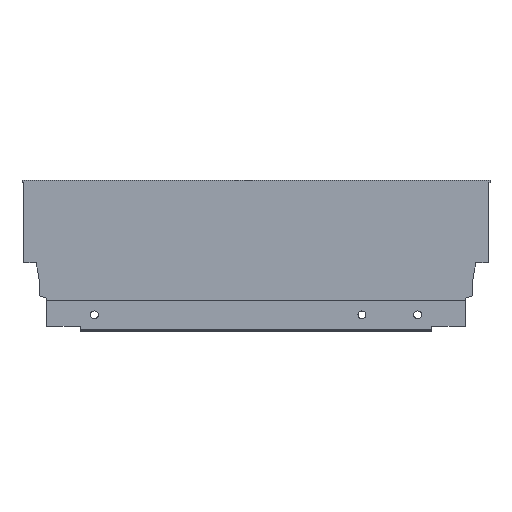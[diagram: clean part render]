
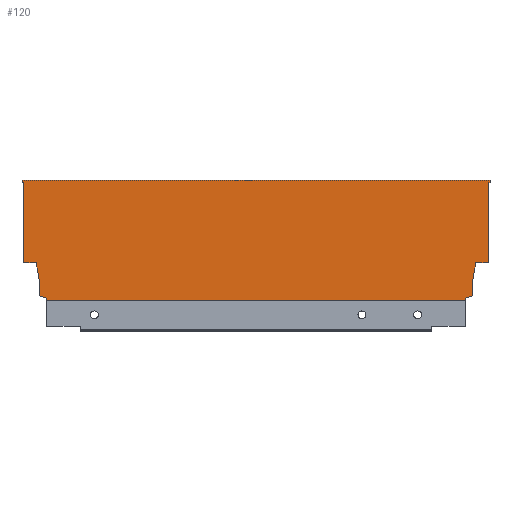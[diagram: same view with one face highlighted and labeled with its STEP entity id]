
A CAD part, top view. The second image highlights one B-rep face of the part: STEP entity #120.
In plain terms, the highlighted planar face has unit normal (0, 0, 1).
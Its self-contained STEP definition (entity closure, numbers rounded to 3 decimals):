
#9 = VERTEX_POINT ( 'NONE', #742 ) ;
#36 = EDGE_LOOP ( 'NONE', ( #216, #217, #218, #219, #220, #221, #222, #223, #224, #225, #226, #227, #228, #229, #230, #231, #232, #233 ) ) ;
#120 = ADVANCED_FACE ( 'NONE', ( #338 ), #763, .T. ) ;
#216 = ORIENTED_EDGE ( 'NONE', *, *, #552, .F. ) ;
#217 = ORIENTED_EDGE ( 'NONE', *, *, #557, .F. ) ;
#218 = ORIENTED_EDGE ( 'NONE', *, *, #556, .T. ) ;
#219 = ORIENTED_EDGE ( 'NONE', *, *, #555, .T. ) ;
#220 = ORIENTED_EDGE ( 'NONE', *, *, #554, .F. ) ;
#221 = ORIENTED_EDGE ( 'NONE', *, *, #561, .F. ) ;
#222 = ORIENTED_EDGE ( 'NONE', *, *, #550, .F. ) ;
#223 = ORIENTED_EDGE ( 'NONE', *, *, #553, .F. ) ;
#224 = ORIENTED_EDGE ( 'NONE', *, *, #548, .F. ) ;
#225 = ORIENTED_EDGE ( 'NONE', *, *, #558, .T. ) ;
#226 = ORIENTED_EDGE ( 'NONE', *, *, #546, .F. ) ;
#227 = ORIENTED_EDGE ( 'NONE', *, *, #544, .F. ) ;
#228 = ORIENTED_EDGE ( 'NONE', *, *, #551, .F. ) ;
#229 = ORIENTED_EDGE ( 'NONE', *, *, #549, .F. ) ;
#230 = ORIENTED_EDGE ( 'NONE', *, *, #547, .F. ) ;
#231 = ORIENTED_EDGE ( 'NONE', *, *, #450, .F. ) ;
#232 = ORIENTED_EDGE ( 'NONE', *, *, #545, .F. ) ;
#233 = ORIENTED_EDGE ( 'NONE', *, *, #543, .F. ) ;
#338 = FACE_OUTER_BOUND ( 'NONE', #36, .T. ) ;
#450 = EDGE_CURVE ( 'NONE', #683, #665, #1416, .T. ) ;
#543 = EDGE_CURVE ( 'NONE', #9, #662, #1605, .T. ) ;
#544 = EDGE_CURVE ( 'NONE', #670, #702, #1607, .T. ) ;
#545 = EDGE_CURVE ( 'NONE', #662, #683, #1609, .T. ) ;
#546 = EDGE_CURVE ( 'NONE', #702, #715, #1611, .T. ) ;
#547 = EDGE_CURVE ( 'NONE', #665, #680, #1613, .T. ) ;
#548 = EDGE_CURVE ( 'NONE', #734, #651, #1615, .T. ) ;
#549 = EDGE_CURVE ( 'NONE', #680, #674, #1617, .T. ) ;
#550 = EDGE_CURVE ( 'NONE', #721, #710, #1619, .T. ) ;
#551 = EDGE_CURVE ( 'NONE', #674, #670, #1621, .T. ) ;
#552 = EDGE_CURVE ( 'NONE', #711, #9, #1623, .T. ) ;
#553 = EDGE_CURVE ( 'NONE', #651, #721, #1588, .T. ) ;
#554 = EDGE_CURVE ( 'NONE', #689, #669, #1627, .T. ) ;
#555 = EDGE_CURVE ( 'NONE', #667, #669, #1629, .T. ) ;
#556 = EDGE_CURVE ( 'NONE', #712, #667, #1598, .T. ) ;
#557 = EDGE_CURVE ( 'NONE', #712, #711, #1633, .T. ) ;
#558 = EDGE_CURVE ( 'NONE', #734, #715, #1635, .T. ) ;
#561 = EDGE_CURVE ( 'NONE', #710, #689, #1626, .T. ) ;
#587 = AXIS2_PLACEMENT_3D ( 'NONE', #766, #772, #773 ) ;
#651 = VERTEX_POINT ( 'NONE', #1246 ) ;
#662 = VERTEX_POINT ( 'NONE', #1255 ) ;
#665 = VERTEX_POINT ( 'NONE', #1258 ) ;
#667 = VERTEX_POINT ( 'NONE', #1260 ) ;
#669 = VERTEX_POINT ( 'NONE', #1262 ) ;
#670 = VERTEX_POINT ( 'NONE', #1263 ) ;
#674 = VERTEX_POINT ( 'NONE', #1267 ) ;
#680 = VERTEX_POINT ( 'NONE', #1273 ) ;
#683 = VERTEX_POINT ( 'NONE', #1276 ) ;
#689 = VERTEX_POINT ( 'NONE', #1282 ) ;
#702 = VERTEX_POINT ( 'NONE', #1295 ) ;
#710 = VERTEX_POINT ( 'NONE', #1303 ) ;
#711 = VERTEX_POINT ( 'NONE', #1304 ) ;
#712 = VERTEX_POINT ( 'NONE', #1305 ) ;
#715 = VERTEX_POINT ( 'NONE', #1308 ) ;
#721 = VERTEX_POINT ( 'NONE', #1314 ) ;
#734 = VERTEX_POINT ( 'NONE', #1327 ) ;
#742 = CARTESIAN_POINT ( 'NONE',  ( 1., 68., 7.5 ) ) ;
#763 = PLANE ( 'NONE',  #587 ) ;
#766 = CARTESIAN_POINT ( 'NONE',  ( -263., 0., 7.5 ) ) ;
#772 = DIRECTION ( 'NONE',  ( 0., 0., 1. ) ) ;
#773 = DIRECTION ( 'NONE',  ( 1., 0., 0. ) ) ;
#976 = CARTESIAN_POINT ( 'NONE',  ( 0., 0., 7.5 ) ) ;
#977 = DIRECTION ( 'NONE',  ( 0., -1., 0. ) ) ;
#1163 = CARTESIAN_POINT ( 'NONE',  ( -254.1, 2.64, 7.5 ) ) ;
#1169 = CARTESIAN_POINT ( 'NONE',  ( 1., 68., 7.5 ) ) ;
#1170 = DIRECTION ( 'NONE',  ( 0., -1., 0. ) ) ;
#1171 = CARTESIAN_POINT ( 'NONE',  ( -8.9, 2.64, 7.5 ) ) ;
#1172 = DIRECTION ( 'NONE',  ( -0.94, -0.342, 0. ) ) ;
#1173 = CARTESIAN_POINT ( 'NONE',  ( 1., 66.5, 7.5 ) ) ;
#1174 = DIRECTION ( 'NONE',  ( -1., 0., 0. ) ) ;
#1175 = CARTESIAN_POINT ( 'NONE',  ( -13.004, 1.146, 7.5 ) ) ;
#1176 = DIRECTION ( 'NONE',  ( 0., -1., 0. ) ) ;
#1177 = CARTESIAN_POINT ( 'NONE',  ( 0., 21.2, 7.5 ) ) ;
#1178 = DIRECTION ( 'NONE',  ( -1., 0., 0. ) ) ;
#1179 = CARTESIAN_POINT ( 'NONE',  ( -249.996, 1.146, 7.5 ) ) ;
#1180 = DIRECTION ( 'NONE',  ( 0., 1., 0. ) ) ;
#1181 = CARTESIAN_POINT ( 'NONE',  ( -7.06, 21.2, 7.5 ) ) ;
#1182 = DIRECTION ( 'NONE',  ( -0.174, -0.985, 0. ) ) ;
#1183 = CARTESIAN_POINT ( 'NONE',  ( -254.1, 10.765, 7.5 ) ) ;
#1184 = DIRECTION ( 'NONE',  ( 0., 1., 0. ) ) ;
#1185 = CARTESIAN_POINT ( 'NONE',  ( -8.9, 10.765, 7.5 ) ) ;
#1186 = DIRECTION ( 'NONE',  ( 0., -1., 0. ) ) ;
#1187 = CARTESIAN_POINT ( 'NONE',  ( -263., 68., 7.5 ) ) ;
#1188 = DIRECTION ( 'NONE',  ( 1., 0., 0. ) ) ;
#1189 = CARTESIAN_POINT ( 'NONE',  ( -264., 66.5, 7.5 ) ) ;
#1190 = DIRECTION ( 'NONE',  ( -0.94, 0.342, 0. ) ) ;
#1191 = CARTESIAN_POINT ( 'NONE',  ( -268., 21.2, 7.5 ) ) ;
#1192 = DIRECTION ( 'NONE',  ( -1., 0., 0. ) ) ;
#1194 = CARTESIAN_POINT ( 'NONE',  ( -263., 0., 7.5 ) ) ;
#1195 = DIRECTION ( 'NONE',  ( 0., -1., 0. ) ) ;
#1197 = DIRECTION ( 'NONE',  ( 1., 0., 0. ) ) ;
#1198 = CARTESIAN_POINT ( 'NONE',  ( -264., 66.5, 7.5 ) ) ;
#1199 = DIRECTION ( 'NONE',  ( 0., 1., 0. ) ) ;
#1200 = CARTESIAN_POINT ( 'NONE',  ( -263., 0., 7.5 ) ) ;
#1201 = DIRECTION ( 'NONE',  ( 1., 0., 0. ) ) ;
#1207 = CARTESIAN_POINT ( 'NONE',  ( -255.94, 21.2, 7.5 ) ) ;
#1208 = DIRECTION ( 'NONE',  ( -0.174, 0.985, 0. ) ) ;
#1246 = CARTESIAN_POINT ( 'NONE',  ( -249.996, 1.146, 7.5 ) ) ;
#1255 = CARTESIAN_POINT ( 'NONE',  ( 1., 66.5, 7.5 ) ) ;
#1258 = CARTESIAN_POINT ( 'NONE',  ( 0., 21.2, 7.5 ) ) ;
#1260 = CARTESIAN_POINT ( 'NONE',  ( -263., 66.5, 7.5 ) ) ;
#1262 = CARTESIAN_POINT ( 'NONE',  ( -263., 21.2, 7.5 ) ) ;
#1263 = CARTESIAN_POINT ( 'NONE',  ( -8.9, 2.64, 7.5 ) ) ;
#1267 = CARTESIAN_POINT ( 'NONE',  ( -8.9, 10.765, 7.5 ) ) ;
#1273 = CARTESIAN_POINT ( 'NONE',  ( -7.06, 21.2, 7.5 ) ) ;
#1276 = CARTESIAN_POINT ( 'NONE',  ( 0., 66.5, 7.5 ) ) ;
#1282 = CARTESIAN_POINT ( 'NONE',  ( -255.94, 21.2, 7.5 ) ) ;
#1295 = CARTESIAN_POINT ( 'NONE',  ( -13.004, 1.146, 7.5 ) ) ;
#1303 = CARTESIAN_POINT ( 'NONE',  ( -254.1, 10.765, 7.5 ) ) ;
#1304 = CARTESIAN_POINT ( 'NONE',  ( -264., 68., 7.5 ) ) ;
#1305 = CARTESIAN_POINT ( 'NONE',  ( -264., 66.5, 7.5 ) ) ;
#1308 = CARTESIAN_POINT ( 'NONE',  ( -13.004, 0., 7.5 ) ) ;
#1314 = CARTESIAN_POINT ( 'NONE',  ( -254.1, 2.64, 7.5 ) ) ;
#1327 = CARTESIAN_POINT ( 'NONE',  ( -249.996, 0., 7.5 ) ) ;
#1414 = VECTOR ( 'NONE', #977, 1000. ) ;
#1416 = LINE ( 'NONE', #976, #1414 ) ;
#1588 = LINE ( 'NONE', #1163, #1625 ) ;
#1598 = LINE ( 'NONE', #1189, #1631 ) ;
#1600 = VECTOR ( 'NONE', #1208, 1000. ) ;
#1605 = LINE ( 'NONE', #1169, #1606 ) ;
#1606 = VECTOR ( 'NONE', #1170, 1000. ) ;
#1607 = LINE ( 'NONE', #1171, #1608 ) ;
#1608 = VECTOR ( 'NONE', #1172, 1000. ) ;
#1609 = LINE ( 'NONE', #1173, #1610 ) ;
#1610 = VECTOR ( 'NONE', #1174, 1000. ) ;
#1611 = LINE ( 'NONE', #1175, #1612 ) ;
#1612 = VECTOR ( 'NONE', #1176, 1000. ) ;
#1613 = LINE ( 'NONE', #1177, #1614 ) ;
#1614 = VECTOR ( 'NONE', #1178, 1000. ) ;
#1615 = LINE ( 'NONE', #1179, #1616 ) ;
#1616 = VECTOR ( 'NONE', #1180, 1000. ) ;
#1617 = LINE ( 'NONE', #1181, #1618 ) ;
#1618 = VECTOR ( 'NONE', #1182, 1000. ) ;
#1619 = LINE ( 'NONE', #1183, #1620 ) ;
#1620 = VECTOR ( 'NONE', #1184, 1000. ) ;
#1621 = LINE ( 'NONE', #1185, #1622 ) ;
#1622 = VECTOR ( 'NONE', #1186, 1000. ) ;
#1623 = LINE ( 'NONE', #1187, #1624 ) ;
#1624 = VECTOR ( 'NONE', #1188, 1000. ) ;
#1625 = VECTOR ( 'NONE', #1190, 1000. ) ;
#1626 = LINE ( 'NONE', #1207, #1600 ) ;
#1627 = LINE ( 'NONE', #1191, #1628 ) ;
#1628 = VECTOR ( 'NONE', #1192, 1000. ) ;
#1629 = LINE ( 'NONE', #1194, #1630 ) ;
#1630 = VECTOR ( 'NONE', #1195, 1000. ) ;
#1631 = VECTOR ( 'NONE', #1197, 1000. ) ;
#1633 = LINE ( 'NONE', #1198, #1634 ) ;
#1634 = VECTOR ( 'NONE', #1199, 1000. ) ;
#1635 = LINE ( 'NONE', #1200, #1636 ) ;
#1636 = VECTOR ( 'NONE', #1201, 1000. ) ;
